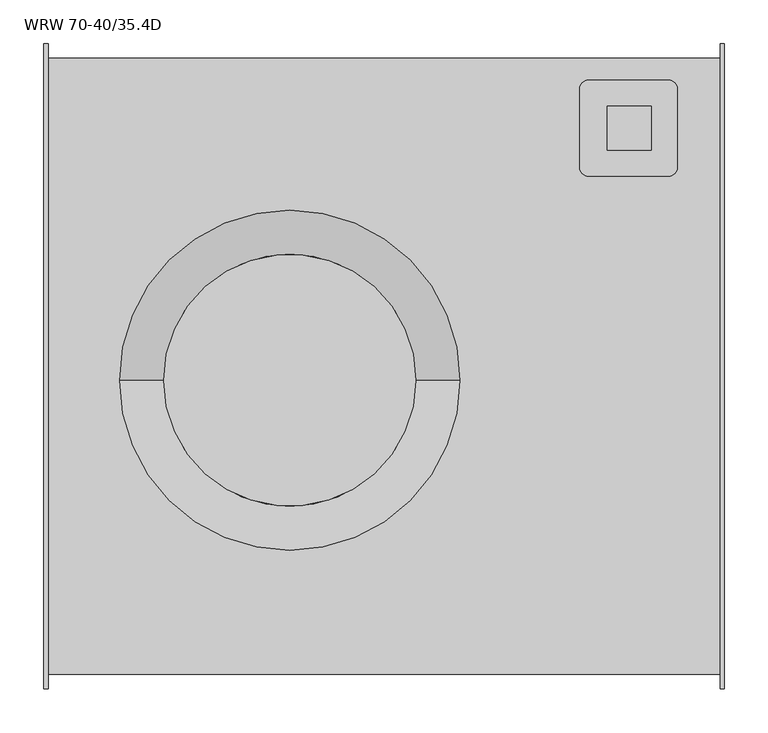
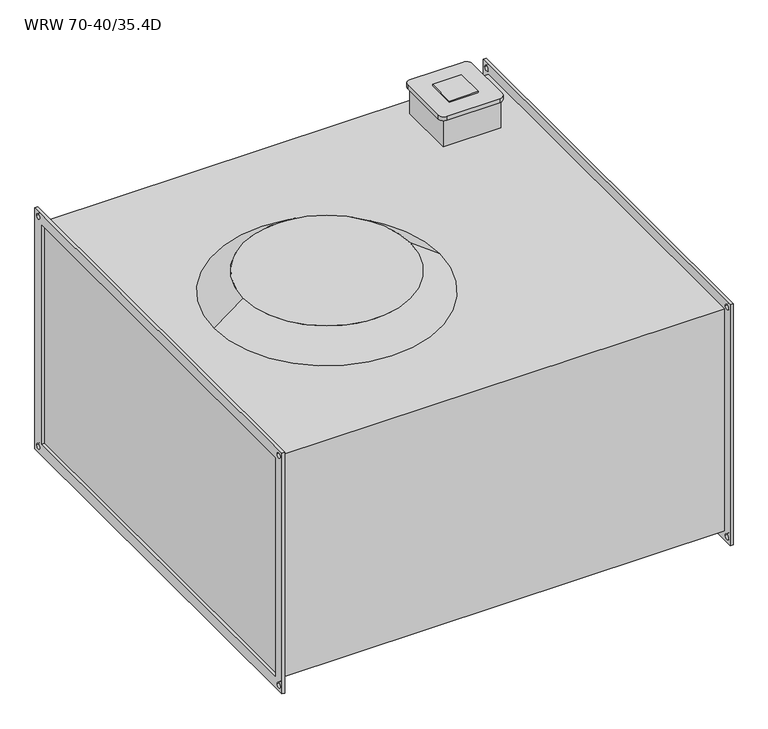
"""IFC4 building model written with IfcOpenShell, lengths in millimetres: proxy geometry, KORF_Вентилятор_WRW : WRW 70-40/35.4D."""

from ifc_helpers import new_model, si_unit, point, frame, frame_2d, origin, place, context, project, spatial, polyline, circle_curve, trimmed, segment, composite_curve, outline, extrude, source, transform, mapped, element, save
from ifc_brep_helpers import plane_surface, cylinder_surface, revolved_surface, advanced_brep


def wrw_70_40_35_4d_a58d766e(model_context):
    return source(origin(), model_context, "Body", "SolidModel", [
        extrude(outline(polyline([(646.0, 248.0), (646.0, 298.0), (696.0, 298.0), (696.0, 248.0), (646.0, 248.0)])), frame((0.0, 0.0, 261.0), z_axis=(0.0, 0.0, 1.0), x_axis=(1.0, 0.0, 0.0)), (0.0, 0.0, 1.0), 2.0),
        advanced_brep(
        [(716.0, 328.0, 261.0), (624.318163, 328.0, 261.0), (614.318163, 318.0, 261.0), (614.318163, 228.0, 261.0), (624.318163, 218.0, 261.0), (716.0, 218.0, 261.0), (726.0, 228.0, 261.0), (726.0, 318.0, 261.0), (716.0, 328.0, 254.0), (726.0, 318.0, 254.0), (726.0, 228.0, 254.0), (716.0, 218.0, 254.0), (624.318163, 218.0, 254.0), (614.318163, 228.0, 254.0), (614.318163, 318.0, 254.0), (624.318163, 328.0, 254.0), (721.0, 323.0, 254.0), (621.0, 323.0, 254.0), (621.0, 223.0, 254.0), (721.0, 223.0, 254.0), (721.0, 323.0, 203.0), (721.0, 223.0, 203.0), (621.0, 223.0, 203.0), (621.0, 323.0, 203.0)],
        [
            (0, 1),
            (1, 2, circle_curve(frame((624.318163, 318.0, 261.0), z_axis=(0.0, 0.0, 1.0), x_axis=(1.0, 0.0, 0.0)), 10.0)),
            (2, 3),
            (3, 4, circle_curve(frame((624.318163, 228.0, 261.0), z_axis=(0.0, 0.0, 1.0), x_axis=(1.0, 0.0, 0.0)), 10.0)),
            (4, 5),
            (5, 6, circle_curve(frame((716.0, 228.0, 261.0), z_axis=(0.0, 0.0, 1.0), x_axis=(1.0, 0.0, 0.0)), 10.0)),
            (6, 7),
            (7, 0, circle_curve(frame((716.0, 318.0, 261.0), z_axis=(0.0, 0.0, 1.0), x_axis=(1.0, 0.0, 0.0)), 10.0)),
            (8, 9, circle_curve(frame((716.0, 318.0, 254.0), z_axis=(0.0, 0.0, -1.0), x_axis=(1.0, 0.0, 0.0)), 10.0)),
            (9, 10),
            (10, 11, circle_curve(frame((716.0, 228.0, 254.0), z_axis=(0.0, 0.0, -1.0), x_axis=(1.0, 0.0, 0.0)), 10.0)),
            (11, 12),
            (12, 13, circle_curve(frame((624.318163, 228.0, 254.0), z_axis=(0.0, 0.0, -1.0), x_axis=(1.0, 0.0, 0.0)), 10.0)),
            (13, 14),
            (14, 15, circle_curve(frame((624.318163, 318.0, 254.0), z_axis=(0.0, 0.0, -1.0), x_axis=(1.0, 0.0, 0.0)), 10.0)),
            (15, 8),
            (16, 17),
            (17, 18),
            (18, 19),
            (19, 16),
            (0, 8),
            (15, 1),
            (14, 2),
            (13, 3),
            (12, 4),
            (11, 5),
            (10, 6),
            (9, 7),
            (20, 21),
            (21, 22),
            (22, 23),
            (23, 20),
            (23, 17),
            (16, 20),
            (22, 18),
            (21, 19),
        ],
        [
            plane_surface(frame((624.318163, 328.0, 261.0), z_axis=(0.0, 0.0, 1.0), x_axis=(-1.0, 0.0, 0.0))),
            plane_surface(frame((624.318163, 328.0, 254.0), z_axis=(0.0, 0.0, -1.0), x_axis=(1.0, 0.0, 0.0))),
            plane_surface(frame((716.0, 328.0, 261.0), z_axis=(0.0, 1.0, 0.0), x_axis=(0.0, 0.0, -1.0))),
            cylinder_surface(frame((624.318163, 318.0, 254.0), z_axis=(0.0, 0.0, 1.0), x_axis=(1.0, 0.0, 0.0)), 10.0),
            plane_surface(frame((614.318163, 318.0, 261.0), z_axis=(-1.0, 0.0, 0.0), x_axis=(0.0, 0.0, -1.0))),
            cylinder_surface(frame((624.318163, 228.0, 254.0), z_axis=(0.0, 0.0, 1.0), x_axis=(1.0, 0.0, 0.0)), 10.0),
            plane_surface(frame((624.318163, 218.0, 261.0), z_axis=(0.0, -1.0, 0.0), x_axis=(0.0, 0.0, -1.0))),
            cylinder_surface(frame((716.0, 228.0, 254.0), z_axis=(0.0, 0.0, 1.0), x_axis=(1.0, 0.0, 0.0)), 10.0),
            plane_surface(frame((726.0, 228.0, 261.0), z_axis=(1.0, 0.0, 0.0), x_axis=(0.0, 0.0, -1.0))),
            cylinder_surface(frame((716.0, 318.0, 254.0), z_axis=(0.0, 0.0, 1.0), x_axis=(1.0, 0.0, 0.0)), 10.0),
            plane_surface(frame((621.0, 323.0, 203.0), z_axis=(0.0, 0.0, -1.0), x_axis=(1.0, 0.0, 0.0))),
            plane_surface(frame((721.0, 323.0, 261.0), z_axis=(0.0, 1.0, 0.0), x_axis=(0.0, 0.0, -1.0))),
            plane_surface(frame((621.0, 323.0, 261.0), z_axis=(-1.0, 0.0, 0.0), x_axis=(0.0, 0.0, -1.0))),
            plane_surface(frame((621.0, 223.0, 261.0), z_axis=(0.0, -1.0, 0.0), x_axis=(0.0, 0.0, -1.0))),
            plane_surface(frame((721.0, 223.0, 261.0), z_axis=(1.0, 0.0, 0.0), x_axis=(0.0, 0.0, -1.0))),
        ],
        [
            (0, [[1, 2, 3, 4, 5, 6, 7, 8]]),
            (1, [[9, 10, 11, 12, 13, 14, 15, 16], [17, 18, 19, 20]]),
            (2, [[-1, 21, -16, 22]]),
            (3, [[-2, -22, -15, 23]]),
            (4, [[-3, -23, -14, 24]]),
            (5, [[-4, -24, -13, 25]]),
            (6, [[-5, -25, -12, 26]]),
            (7, [[-6, -26, -11, 27]]),
            (8, [[-7, -27, -10, 28]]),
            (9, [[-8, -28, -9, -21]]),
            (10, [[29, 30, 31, 32]]),
            (11, [[-32, 33, -17, 34]]),
            (12, [[-31, 35, -18, -33]]),
            (13, [[-30, 36, -19, -35]]),
            (14, [[-29, -34, -20, -36]]),
        ],
    ),
        advanced_brep(
        [(87.0, -16.0, 203.0), (477.0, -16.0, 203.0), (137.5, -16.0, 240.5), (426.5, -16.0, 240.5)],
        [
            (0, 1, circle_curve(frame((282.0, -16.0, 203.0), z_axis=(0.0, 0.0, -1.0), x_axis=(-1.0, 0.0, 0.0)), 195.0)),
            (1, 0, circle_curve(frame((282.0, -16.0, 203.0), z_axis=(0.0, 0.0, -1.0), x_axis=(1.0, 0.0, 0.0)), 195.0)),
            (2, 3, circle_curve(frame((282.0, -16.0, 240.5), z_axis=(0.0, 0.0, 1.0), x_axis=(1.0, 0.0, 0.0)), 144.5)),
            (3, 2, circle_curve(frame((282.0, -16.0, 240.5), z_axis=(0.0, 0.0, 1.0), x_axis=(-1.0, 0.0, 0.0)), 144.5)),
            (2, 0),
            (1, 3),
        ],
        [
            plane_surface(frame((282.0, -16.0, 203.0), z_axis=(0.0, 0.0, -1.0), x_axis=(0.0, -1.0, 0.0))),
            plane_surface(frame((282.0, -16.0, 240.5), z_axis=(0.0, 0.0, 1.0), x_axis=(0.0, -1.0, 0.0))),
            revolved_surface(polyline([(137.4999999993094, -16.0, 240.5), (87.0, -16.0, 203.0)]), (282.0, -16.0, 347.8019802), (0.0, 0.0, -1.0)),
            revolved_surface(polyline([(426.5000000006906, -16.0, 240.5), (477.0, -16.0, 203.0)]), (282.0, -16.0, 347.8019802), (0.0, 0.0, -1.0)),
        ],
        [
            (0, [[1, 2]]),
            (1, [[3, 4]]),
            (2, [[-3, 5, -2, 6]]),
            (3, [[-4, -6, -1, -5]]),
        ],
    ),
        extrude(outline(polyline([(-370.0, 220.0), (370.0, 220.0), (370.0, -220.0), (-370.0, -220.0), (-370.0, 220.0)]), holes=[polyline([(-350.0, 200.0), (-350.0, -200.0), (350.0, -200.0), (350.0, 200.0), (-350.0, 200.0)]), composite_curve([segment(trimmed(circle_curve(frame_2d((360.0, 210.0)), 4.5), [point((355.5, 210.0))], [point((364.5, 210.0))], True, "CARTESIAN"), True, "CONTINUOUS"), segment(trimmed(circle_curve(frame_2d((360.0, 210.0)), 4.5), [point((364.5, 210.0))], [point((355.5, 210.0))], True, "CARTESIAN"), True, "CONTINUOUS")], self_intersect=False), composite_curve([segment(trimmed(circle_curve(frame_2d((-360.0, 210.0)), 4.5), [point((-364.5, 210.0))], [point((-355.5, 210.0))], True, "CARTESIAN"), True, "CONTINUOUS"), segment(trimmed(circle_curve(frame_2d((-360.0, 210.0)), 4.5), [point((-355.5, 210.0))], [point((-364.5, 210.0))], True, "CARTESIAN"), True, "CONTINUOUS")], self_intersect=False), composite_curve([segment(trimmed(circle_curve(frame_2d((-360.0, -210.0)), 4.5), [point((-364.5, -210.0))], [point((-355.5, -210.0))], True, "CARTESIAN"), True, "CONTINUOUS"), segment(trimmed(circle_curve(frame_2d((-360.0, -210.0)), 4.5), [point((-355.5, -210.0))], [point((-364.5, -210.0))], True, "CARTESIAN"), True, "CONTINUOUS")], self_intersect=False), composite_curve([segment(trimmed(circle_curve(frame_2d((360.0, -210.0)), 4.5), [point((355.5, -210.0))], [point((364.5, -210.0))], True, "CARTESIAN"), True, "CONTINUOUS"), segment(trimmed(circle_curve(frame_2d((360.0, -210.0)), 4.5), [point((364.5, -210.0))], [point((355.5, -210.0))], True, "CARTESIAN"), True, "CONTINUOUS")], self_intersect=False)]), frame((775.0, 0.0, 0.0), z_axis=(1.0, 0.0, 0.0), x_axis=(0.0, 1.0, 0.0)), (0.0, 0.0, 1.0), 5.0),
        extrude(outline(polyline([(-370.0, 220.0), (370.0, 220.0), (370.0, -220.0), (-370.0, -220.0), (-370.0, 220.0)]), holes=[polyline([(-350.0, 200.0), (-350.0, -200.0), (350.0, -200.0), (350.0, 200.0), (-350.0, 200.0)]), composite_curve([segment(trimmed(circle_curve(frame_2d((360.0, 210.0)), 4.5), [point((355.5, 210.0))], [point((364.5, 210.0))], True, "CARTESIAN"), True, "CONTINUOUS"), segment(trimmed(circle_curve(frame_2d((360.0, 210.0)), 4.5), [point((364.5, 210.0))], [point((355.5, 210.0))], True, "CARTESIAN"), True, "CONTINUOUS")], self_intersect=False), composite_curve([segment(trimmed(circle_curve(frame_2d((-360.0, 210.0)), 4.5), [point((-364.5, 210.0))], [point((-355.5, 210.0))], True, "CARTESIAN"), True, "CONTINUOUS"), segment(trimmed(circle_curve(frame_2d((-360.0, 210.0)), 4.5), [point((-355.5, 210.0))], [point((-364.5, 210.0))], True, "CARTESIAN"), True, "CONTINUOUS")], self_intersect=False), composite_curve([segment(trimmed(circle_curve(frame_2d((-360.0, -210.0)), 4.5), [point((-364.5, -210.0))], [point((-355.5, -210.0))], True, "CARTESIAN"), True, "CONTINUOUS"), segment(trimmed(circle_curve(frame_2d((-360.0, -210.0)), 4.5), [point((-355.5, -210.0))], [point((-364.5, -210.0))], True, "CARTESIAN"), True, "CONTINUOUS")], self_intersect=False), composite_curve([segment(trimmed(circle_curve(frame_2d((360.0, -210.0)), 4.5), [point((355.5, -210.0))], [point((364.5, -210.0))], True, "CARTESIAN"), True, "CONTINUOUS"), segment(trimmed(circle_curve(frame_2d((360.0, -210.0)), 4.5), [point((364.5, -210.0))], [point((355.5, -210.0))], True, "CARTESIAN"), True, "CONTINUOUS")], self_intersect=False)]), frame((0.0, 0.0, 0.0), z_axis=(1.0, 0.0, 0.0), x_axis=(0.0, 1.0, 0.0)), (0.0, 0.0, 1.0), 5.0),
        extrude(outline(polyline([(775.0, 353.0), (775.0, -353.0), (5.0, -353.0), (5.0, 353.0), (775.0, 353.0)])), frame((0.0, 0.0, -203.0), z_axis=(0.0, 0.0, 1.0), x_axis=(1.0, 0.0, 0.0)), (0.0, 0.0, 1.0), 406.0),
    ])


if __name__ == "__main__":
    model = new_model("IFC4")
    model_context = context("Model", 3, world=origin())
    ifc_project = project(units=[si_unit("LENGTHUNIT", "METRE", prefix="MILLI")], contexts=[model_context])
    site = spatial("IfcSite", under=ifc_project)
    building = spatial("IfcBuilding", under=site)
    placement = place(None, origin())
    wrw_70_40_35_4d_shape = wrw_70_40_35_4d_a58d766e(model_context)
    element("IfcBuildingElementProxy", 1, Name="KORF_Вентилятор_WRW : WRW 70-40/35.4D", ObjectType="KORF_Вентилятор_WRW : WRW 70-40/35.4D", at=placement, inside=building, context=model_context, shape_type="MappedRepresentation", body=[
        mapped(wrw_70_40_35_4d_shape, transform((0.0, 0.0, 0.0), x_axis=(1.0, 0.0, 0.0), y_axis=(0.0, 1.0, 0.0), z_axis=(0.0, 0.0, 1.0))),
    ])
    save(model, "model.ifc")
